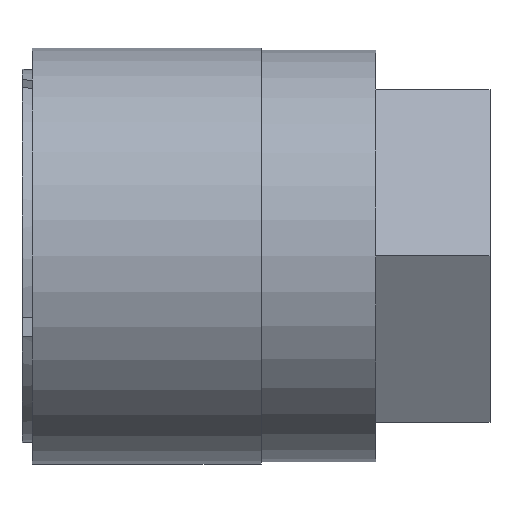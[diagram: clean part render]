
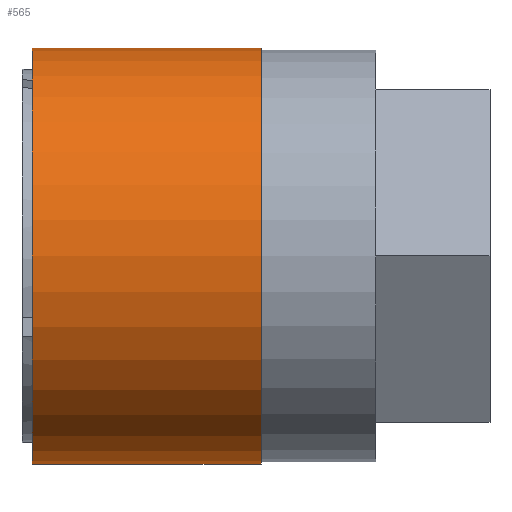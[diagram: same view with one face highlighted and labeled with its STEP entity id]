
A CAD part, front view. The second image highlights one B-rep face of the part: STEP entity #565.
In plain terms, the highlighted cylindrical face has radius 10 mm (diameter 20 mm), a partial arc.
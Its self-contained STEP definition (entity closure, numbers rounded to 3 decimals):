
#228 = VERTEX_POINT ( 'NONE', #476 ) ;
#233 = VERTEX_POINT ( 'NONE', #474 ) ;
#244 = VERTEX_POINT ( 'NONE', #470 ) ;
#248 = VERTEX_POINT ( 'NONE', #469 ) ;
#299 = DIRECTION ( 'NONE',  ( -1., 0., 0. ) ) ;
#300 = CARTESIAN_POINT ( 'NONE',  ( 0., 0., 0. ) ) ;
#310 = DIRECTION ( 'NONE',  ( 0., 0., 1. ) ) ;
#469 = CARTESIAN_POINT ( 'NONE',  ( 0.5, 0., -10. ) ) ;
#470 = CARTESIAN_POINT ( 'NONE',  ( 11.5, 0., -10. ) ) ;
#474 = CARTESIAN_POINT ( 'NONE',  ( 0.5, 0., 10. ) ) ;
#476 = CARTESIAN_POINT ( 'NONE',  ( 11.5, 0., 10. ) ) ;
#565 = ADVANCED_FACE ( 'NONE', ( #748 ), #755, .T. ) ;
#748 = FACE_OUTER_BOUND ( 'NONE', #952, .T. ) ;
#755 = CYLINDRICAL_SURFACE ( 'NONE', #1603, 10. ) ;
#820 = LINE ( 'NONE', #1510, #825 ) ;
#825 = VECTOR ( 'NONE', #1507, 1000. ) ;
#839 = LINE ( 'NONE', #1487, #840 ) ;
#840 = VECTOR ( 'NONE', #1486, 1000. ) ;
#843 = CIRCLE ( 'NONE', #1060, 10. ) ;
#874 = CIRCLE ( 'NONE', #1388, 10. ) ;
#935 = ORIENTED_EDGE ( 'NONE', *, *, #1042, .T. ) ;
#936 = ORIENTED_EDGE ( 'NONE', *, *, #1129, .T. ) ;
#952 = EDGE_LOOP ( 'NONE', ( #954, #936, #935, #977 ) ) ;
#954 = ORIENTED_EDGE ( 'NONE', *, *, #1030, .F. ) ;
#977 = ORIENTED_EDGE ( 'NONE', *, *, #1043, .F. ) ;
#1030 = EDGE_CURVE ( 'NONE', #244, #248, #820, .T. ) ;
#1042 = EDGE_CURVE ( 'NONE', #228, #233, #839, .T. ) ;
#1043 = EDGE_CURVE ( 'NONE', #248, #233, #843, .T. ) ;
#1060 = AXIS2_PLACEMENT_3D ( 'NONE', #1485, #1484, #1483 ) ;
#1129 = EDGE_CURVE ( 'NONE', #244, #228, #874, .T. ) ;
#1195 = DIRECTION ( 'NONE',  ( -1., 0., 0. ) ) ;
#1196 = DIRECTION ( 'NONE',  ( 0., 0., 1. ) ) ;
#1363 = CARTESIAN_POINT ( 'NONE',  ( 11.5, 0., 0. ) ) ;
#1388 = AXIS2_PLACEMENT_3D ( 'NONE', #1363, #1195, #1196 ) ;
#1483 = DIRECTION ( 'NONE',  ( 0., 0., 1. ) ) ;
#1484 = DIRECTION ( 'NONE',  ( -1., 0., 0. ) ) ;
#1485 = CARTESIAN_POINT ( 'NONE',  ( 0.5, 0., 0. ) ) ;
#1486 = DIRECTION ( 'NONE',  ( -1., 0., 0. ) ) ;
#1487 = CARTESIAN_POINT ( 'NONE',  ( 0., 0., 10. ) ) ;
#1507 = DIRECTION ( 'NONE',  ( -1., 0., 0. ) ) ;
#1510 = CARTESIAN_POINT ( 'NONE',  ( 0., 0., -10. ) ) ;
#1603 = AXIS2_PLACEMENT_3D ( 'NONE', #300, #299, #310 ) ;
